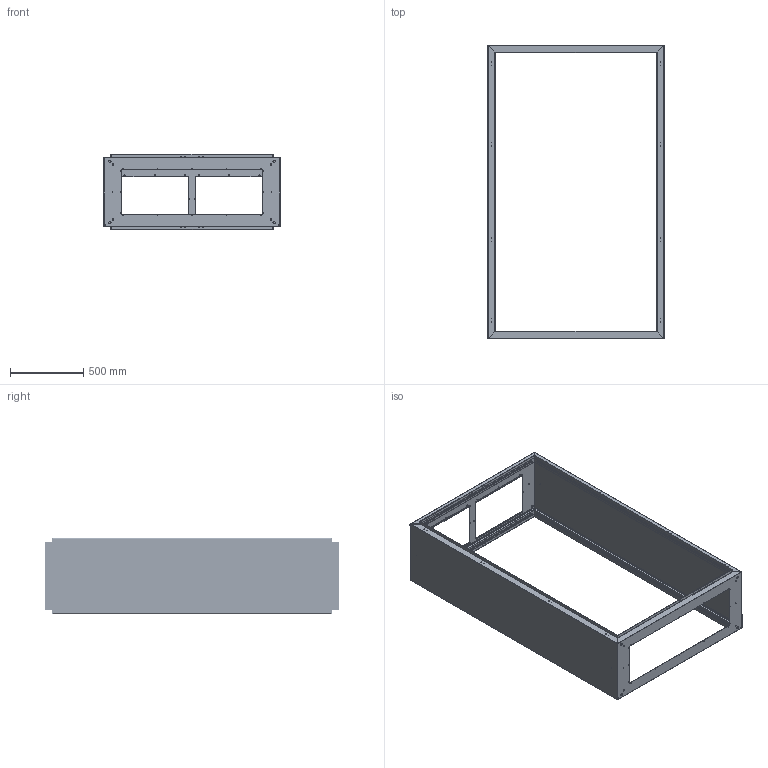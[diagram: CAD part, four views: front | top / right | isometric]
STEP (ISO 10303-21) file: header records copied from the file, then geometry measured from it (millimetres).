
FILE_DESCRIPTION (( 'STEP AP203' ), '1' );
FILE_NAME ('1200x2000x500.STEP', '2021-11-11T16:59:45', ( '' ), ( '' ), 'SwSTEP 2.0', 'SolidWorks 2019', '' );
FILE_SCHEMA (( 'CONFIG_CONTROL_DESIGN' ));
Length unit declared in the file: millimetre
Products named in the file (4): Yan Kapak 1,5mm_monoblok_tekkapakrevize_PP 16.1007 - 2000Yx500D YAN; Üst Kapak 1,5mm_monoblok_tekkapakrevize_PP 16.1016 1200Gx500D šST; 1200x2000x500; Alt Kapak 1,5mm_monoblok_tekkapakrevize_PP 16.1025 1200Gx500D ALT
Assembly tree (4 placements, depth 2):
  1200x2000x500
    Alt Kapak 1,5mm_monoblok_tekkapakrevize_PP 16.1025 1200Gx500D ALT
    Üst Kapak 1,5mm_monoblok_tekkapakrevize_PP 16.1016 1200Gx500D šST
    Yan Kapak 1,5mm_monoblok_tekkapakrevize_PP 16.1007 - 2000Yx500D YAN  x2
Bounding box: 1200 x 2000 x 512 mm (x, y, z)
Volume: 6229572.1 mm3; surface area: 8417613 mm2
Topology: 4 solids, 4 shells, 6312 faces, 18632 edges, 12336 vertices
Faces by surface type: plane 4108, cylinder 2188, bspline 16
Entity records: 152802 total; most frequent: CARTESIAN_POINT 26487, ORIENTED_EDGE 25976, DIRECTION 24802, EDGE_CURVE 12988, VECTOR 9932, LINE 9932, VERTEX_POINT 8592, AXIS2_PLACEMENT_3D 7435
